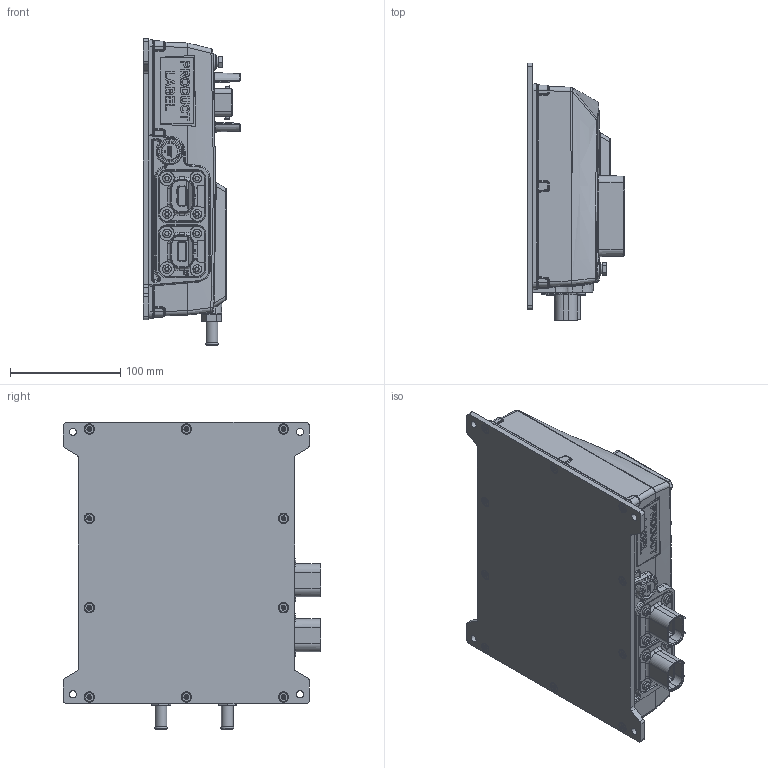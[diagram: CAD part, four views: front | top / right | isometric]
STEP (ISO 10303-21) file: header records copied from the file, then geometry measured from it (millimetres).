
FILE_DESCRIPTION (( 'STEP AP203' ), '1' );
FILE_NAME ('Lincoln Liquid Cooled CUSTOMER MODEL.STEP', '2015-01-09T11:37:44', ( '' ), ( '' ), 'SwSTEP 2.0', 'SolidWorks 2015', '' );
FILE_SCHEMA (( 'CONFIG_CONTROL_DESIGN' ));
Length unit declared in the file: millimetre
Products named in the file (1): Lincoln Liquid Cooled CUSTOMER MODEL
Bounding box: 88 x 233.1 x 278.47 mm (x, y, z)
Surface area: 236747.1 mm2 (no closed solid volume)
Topology: 0 solids, 79 shells, 1543 faces, 5621 edges, 3884 vertices
Faces by surface type: plane 561, cylinder 460, bspline 366, cone 86, torus 48, sphere 22
Full cylindrical faces by diameter (mm): 3.4 x2, 6.5 x4, 8 x18, 8.5 x2, 10.5 x2, 12.1 x1
Entity records: 71935 total; most frequent: CARTESIAN_POINT 29822, ORIENTED_EDGE 8392, DIRECTION 7741, EDGE_CURVE 5444, VERTEX_POINT 3874, VECTOR 2727, LINE 2727, AXIS2_PLACEMENT_3D 2507
